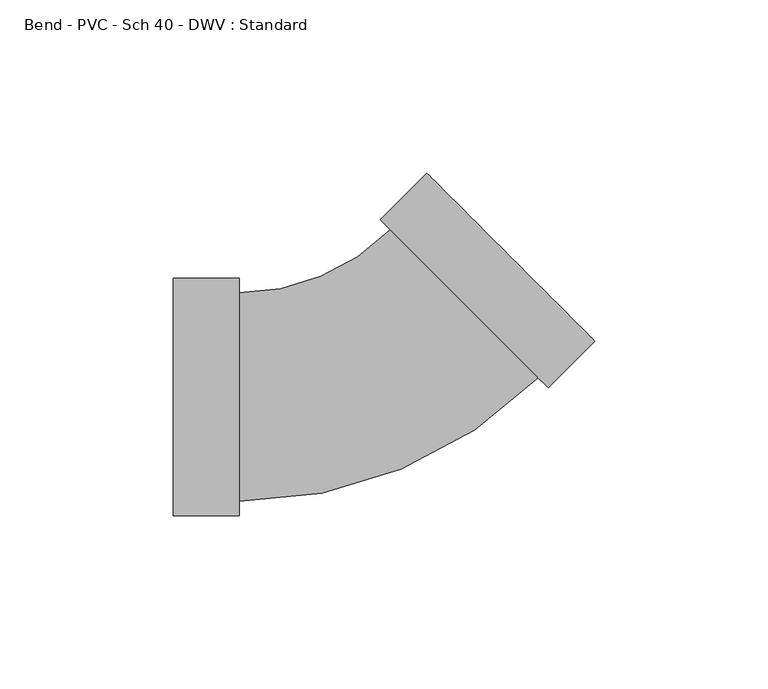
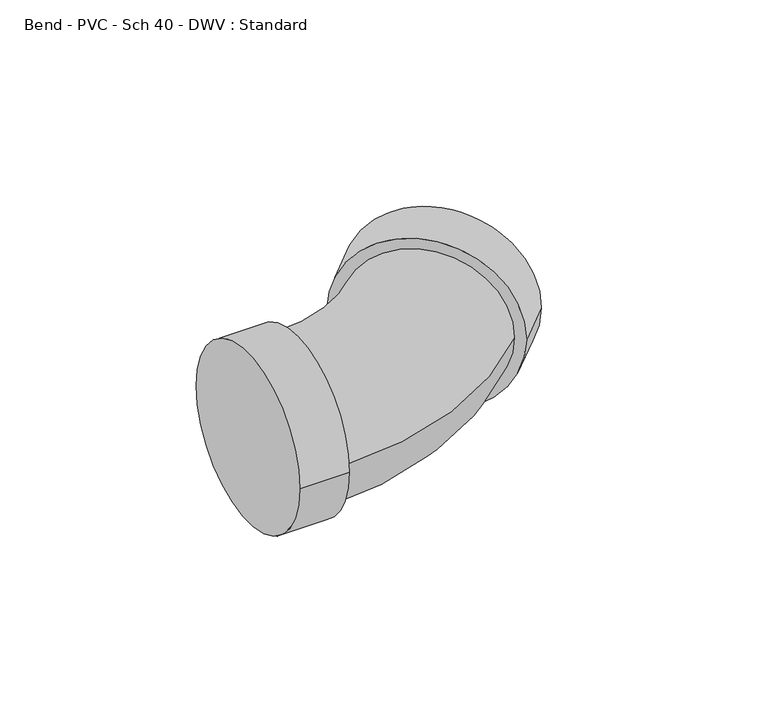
"""IFC4 building model written with IfcOpenShell, lengths in millimetres: pipe fitting geometry, Bend - PVC - Sch 40 - DWV : Standard."""

from ifc_helpers import new_model, si_unit, point, frame, origin, place, context, project, spatial, circle_curve, ellipse_curve, trimmed, source, transform, mapped, element, save
from ifc_brep_helpers import plane_surface, cylinder_surface, revolved_surface, advanced_brep


def bend_pvc_sch_40_dwv_standard_5578bafd(model_context):
    return source(origin(), model_context, "Body", "AdvancedBrep", [
        advanced_brep(
        [(-57.15, -34.3154, 0.0), (-57.15, 34.3154, 0.0), (-38.1, -34.3154, 0.0), (-38.1, 34.3154, 0.0), (-38.1, -30.1625, 0.0), (-38.1, 30.1625, 0.0), (5.6126601, 48.2688767, 0.0), (48.2688767, 5.6126601, 0.0), (51.2054204, 2.6761163, 0.0), (2.6761163, 51.2054204, 0.0), (64.6758046, 16.1465005, 0.0), (16.1465005, 64.6758046, 0.0)],
        [
            (0, 1, circle_curve(frame((-57.15, 0.0, 0.0), z_axis=(-1.0, 0.0, 0.0), x_axis=(0.0, 1.0, 0.0)), 34.3154)),
            (1, 0, circle_curve(frame((-57.15, 0.0, 0.0), z_axis=(-1.0, 0.0, 0.0), x_axis=(0.0, 1.0, 0.0)), 34.3154)),
            (2, 3, circle_curve(frame((-38.1, 0.0, 0.0), z_axis=(1.0, 0.0, 0.0), x_axis=(0.0, 1.0, 0.0)), 34.3154)),
            (3, 2, circle_curve(frame((-38.1, 0.0, 0.0), z_axis=(1.0, 0.0, 0.0), x_axis=(0.0, 1.0, 0.0)), 34.3154)),
            (4, 5, circle_curve(frame((-38.1, 0.0, 0.0), z_axis=(-1.0, 0.0, 0.0), x_axis=(0.0, 1.0, 0.0)), 30.1625)),
            (5, 4, circle_curve(frame((-38.1, 0.0, 0.0), z_axis=(-1.0, 0.0, 0.0), x_axis=(0.0, 1.0, 0.0)), 30.1625)),
            (0, 2),
            (3, 1),
            (6, 5, circle_curve(frame((-38.1, 91.9815367, 0.0), z_axis=(0.0, 0.0, -1.0), x_axis=(0.0, -1.0, 0.0)), 61.8190367)),
            (4, 7, circle_curve(frame((-38.1, 91.9815367, 0.0), z_axis=(0.0, 0.0, 1.0), x_axis=(0.0, -1.0, 0.0)), 122.1440367)),
            (7, 6, circle_curve(frame((26.9407684, 26.9407684, 0.0), z_axis=(-0.7071067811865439, -0.7071067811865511, 0.0), x_axis=(-0.7071067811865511, 0.7071067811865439, 0.0)), 30.1625)),
            (6, 7, circle_curve(frame((26.9407684, 26.9407684, 0.0), z_axis=(-0.7071067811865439, -0.7071067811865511, 0.0), x_axis=(-0.7071067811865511, 0.7071067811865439, 0.0)), 30.1625)),
            (8, 9, circle_curve(frame((26.9407684, 26.9407684, 0.0), z_axis=(-0.707106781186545, -0.7071067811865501, 0.0), x_axis=(-0.7071067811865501, 0.707106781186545, 0.0)), 34.3154)),
            (9, 8, circle_curve(frame((26.9407684, 26.9407684, 0.0), z_axis=(-0.707106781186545, -0.7071067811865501, 0.0), x_axis=(-0.7071067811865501, 0.707106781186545, 0.0)), 34.3154)),
            (10, 11, circle_curve(frame((40.4111525, 40.4111525, 0.0), z_axis=(0.707106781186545, 0.7071067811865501, 0.0), x_axis=(-0.7071067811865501, 0.707106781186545, 0.0)), 34.3154)),
            (11, 10, circle_curve(frame((40.4111525, 40.4111525, 0.0), z_axis=(0.707106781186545, 0.7071067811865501, 0.0), x_axis=(-0.7071067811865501, 0.707106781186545, 0.0)), 34.3154)),
            (8, 10),
            (11, 9),
        ],
        [
            plane_surface(frame((-57.15, 0.0, 0.0), z_axis=(-1.0, 0.0, 0.0), x_axis=(0.0, 0.0, 1.0))),
            plane_surface(frame((-38.1, 0.0, 0.0), z_axis=(1.0, 0.0, 0.0), x_axis=(0.0, 0.0, 1.0))),
            cylinder_surface(frame((-57.15, 0.0, 0.0), z_axis=(-1.0, 0.0, 0.0), x_axis=(0.0, 1.0, 0.0)), 34.3154),
            revolved_surface(trimmed(ellipse_curve(frame((-38.1, 0.0, 0.0), z_axis=(-1.0, 0.0, 0.0), x_axis=(0.0, 1.0, 0.0)), 30.1625, 30.1625), [point((-38.1, -30.1625, 0.0))], [point((-38.1, 30.1625, 0.0))], True, "CARTESIAN"), (-38.1, 91.9815367, 0.0), (0.0, 0.0, 1.0)),
            revolved_surface(trimmed(ellipse_curve(frame((-38.1, 0.0, 0.0), z_axis=(-1.0, 0.0, 0.0), x_axis=(0.0, 1.0, 0.0)), 30.1625, 30.1625), [point((-38.1, 30.1625, 0.0))], [point((-38.1, -30.1625, 0.0))], True, "CARTESIAN"), (-38.1, 91.9815367, 0.0), (0.0, 0.0, 1.0)),
            plane_surface(frame((26.9407684, 26.9407684, 0.0), z_axis=(-0.707106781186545, -0.7071067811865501, 0.0), x_axis=(0.0, 0.0, 1.0))),
            plane_surface(frame((40.4111525, 40.4111525, 0.0), z_axis=(0.707106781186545, 0.7071067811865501, 0.0), x_axis=(0.0, 0.0, 1.0))),
            cylinder_surface(frame((26.9407684, 26.9407684, 0.0), z_axis=(-0.707106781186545, -0.7071067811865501, 0.0), x_axis=(-0.7071067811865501, 0.707106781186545, 0.0)), 34.3154),
        ],
        [
            (0, [[1, 2]]),
            (1, [[3, 4], [5, 6]]),
            (2, [[-1, 7, -4, 8]]),
            (2, [[-2, -8, -3, -7]]),
            (3, [[9, -5, 10, 11]]),
            (4, [[-9, 12, -10, -6]]),
            (5, [[13, 14], [-11, -12]]),
            (6, [[15, 16]]),
            (7, [[-13, 17, -16, 18]]),
            (7, [[-14, -18, -15, -17]]),
        ],
    ),
    ])


if __name__ == "__main__":
    model = new_model("IFC4")
    model_context = context("Model", 3, world=origin())
    ifc_project = project(units=[si_unit("LENGTHUNIT", "METRE", prefix="MILLI")], contexts=[model_context])
    site = spatial("IfcSite", under=ifc_project)
    building = spatial("IfcBuilding", under=site)
    placement = place(None, origin())
    bend_pvc_sch_40_dwv_standard_shape = bend_pvc_sch_40_dwv_standard_5578bafd(model_context)
    element("IfcPipeFitting", 1, ObjectType="Bend - PVC - Sch 40 - DWV : Standard", at=placement, inside=building, context=model_context, shape_type="MappedRepresentation", body=[
        mapped(bend_pvc_sch_40_dwv_standard_shape, transform((0.0, 0.0, 0.0), x_axis=(1.0, 0.0, 0.0), y_axis=(0.0, 1.0, 0.0), z_axis=(0.0, 0.0, 1.0))),
    ])
    save(model, "model.ifc")
